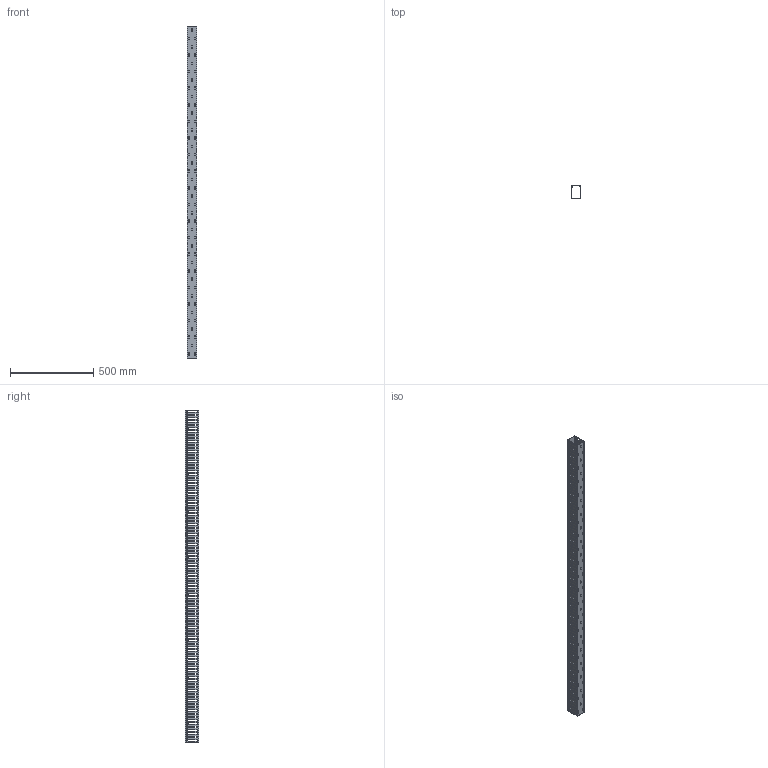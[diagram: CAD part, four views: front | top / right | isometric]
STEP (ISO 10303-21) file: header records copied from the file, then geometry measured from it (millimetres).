
FILE_DESCRIPTION (( 'STEP AP214' ), '1' );
FILE_NAME ('KD-68-20-T.STEP', '2020-02-19T00:44:14', ( '' ), ( '' ), 'SwSTEP 2.0', 'SolidWorks 2018', '' );
FILE_SCHEMA (( 'AUTOMOTIVE_DESIGN' ));
Length unit declared in the file: millimetre
Products named in the file (3): KD-68-20-T-body; KD-64-20-cover; KD-68-20-T
Assembly tree (2 placements, depth 2):
  KD-68-20-T
    KD-68-20-T-body
    KD-64-20-cover
Bounding box: 60 x 80.17 x 2000 mm (x, y, z)
Volume: 842913.3 mm3; surface area: 1080616.6 mm2
Topology: 2 solids, 2 shells, 2963 faces, 10077 edges, 6718 vertices
Faces by surface type: plane 1746, cylinder 1217
Entity records: 111275 total; most frequent: ORIENTED_EDGE 20154, CARTESIAN_POINT 19763, DIRECTION 19247, EDGE_CURVE 10077, LINE 6843, VECTOR 6843, VERTEX_POINT 6718, AXIS2_PLACEMENT_3D 6202
